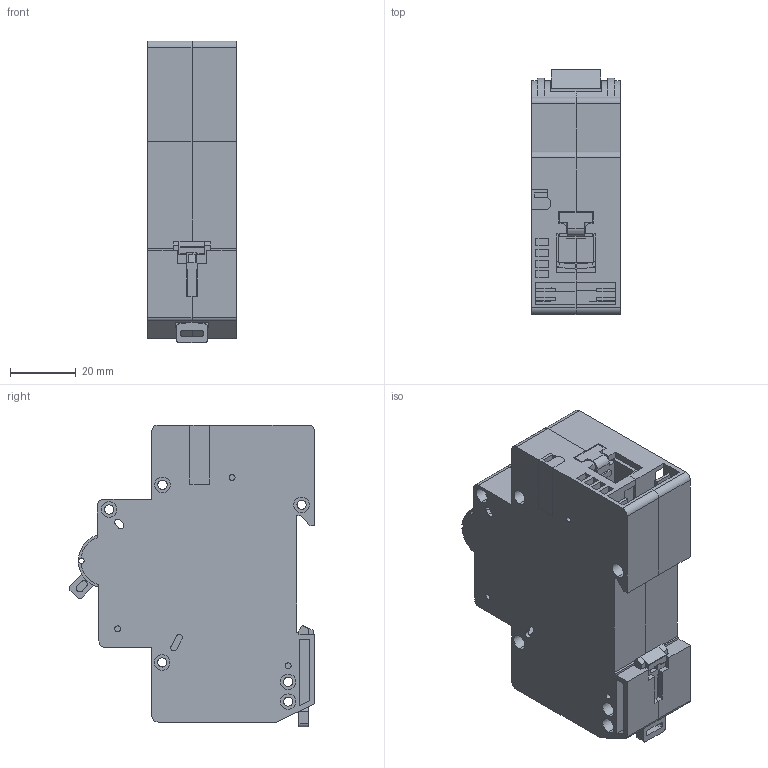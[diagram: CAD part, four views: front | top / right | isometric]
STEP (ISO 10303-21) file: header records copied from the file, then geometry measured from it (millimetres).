
FILE_DESCRIPTION (( 'STEP AP214' ), '1' );
FILE_NAME ('OptiDin BM125 1 ïîëþñ.STEP', '2022-12-01T08:20:26', ( '' ), ( '' ), 'SwSTEP 2.0', 'SolidWorks 2018', '' );
FILE_SCHEMA (( 'AUTOMOTIVE_DESIGN' ));
Length unit declared in the file: millimetre
Products named in the file (10): Áîêîâèíà ïðàâàÿ ÃÆÈÊ.735224.142 ïóñòàÿ; Ðó÷êà ÃÆÈÊ.753725.017; 妈眚 闷仁.758151.075; Êîëîäêà ÃÆÈÊ.745418.023; Áîêîâèíà ëåâàÿ ÃÆÈÊ.735224.141(ïóñòàÿ); Âûâîä íèæíèé ÃÆÈÊ.745315.018 îáðåçàíûé; Çàù¸ëêà ÃÆÈÊ.741358.040; Âñòàâêà ÃÆÈÊ.741324.037; Âûâîä âåðõíèé ÃÆÈÊ.745315.019; OptiDin BM125 1 ïîëþñ
Assembly tree (11 placements, depth 2):
  OptiDin BM125 1 ïîëþñ
    Áîêîâèíà ëåâàÿ ÃÆÈÊ.735224.141(ïóñòàÿ)
    Áîêîâèíà ïðàâàÿ ÃÆÈÊ.735224.142 ïóñòàÿ
    Âñòàâêà ÃÆÈÊ.741324.037
    Âûâîä íèæíèé ÃÆÈÊ.745315.018 îáðåçàíûé
    Âûâîä âåðõíèé ÃÆÈÊ.745315.019
    妈眚 闷仁.758151.075  x2
    Êîëîäêà ÃÆÈÊ.745418.023  x2
    Ðó÷êà ÃÆÈÊ.753725.017
    Çàù¸ëêà ÃÆÈÊ.741358.040
Bounding box: 27 x 74.51 x 91.57 mm (x, y, z)
Volume: 45340.8 mm3; surface area: 52981.8 mm2
Topology: 11 solids, 11 shells, 1038 faces, 2795 edges, 1802 vertices
Faces by surface type: plane 766, cylinder 257, torus 8, cone 7
Entity records: 29564 total; most frequent: CARTESIAN_POINT 5248, ORIENTED_EDGE 5050, DIRECTION 4880, EDGE_CURVE 2525, LINE 1968, VECTOR 1968, VERTEX_POINT 1640, AXIS2_PLACEMENT_3D 1456
